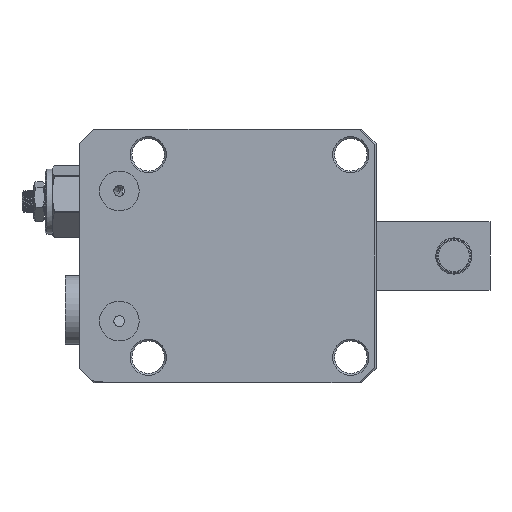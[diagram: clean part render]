
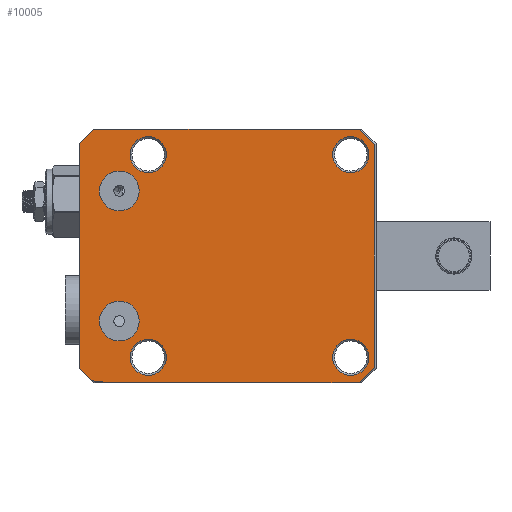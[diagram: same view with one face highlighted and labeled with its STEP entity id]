
A CAD part, front view. The second image highlights one B-rep face of the part: STEP entity #10005.
In plain terms, the highlighted planar face has unit normal (0, -1, 0).
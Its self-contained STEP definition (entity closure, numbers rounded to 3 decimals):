
#530=PLANE('',#10975);
#701=FACE_BOUND('',#1817,.T.);
#702=FACE_BOUND('',#1818,.T.);
#703=FACE_BOUND('',#1819,.T.);
#704=FACE_BOUND('',#1820,.T.);
#705=FACE_BOUND('',#1821,.T.);
#706=FACE_BOUND('',#1822,.T.);
#1229=FACE_OUTER_BOUND('',#1816,.T.);
#1816=EDGE_LOOP('',(#6970,#6971,#6972,#6973,#6974,#6975,#6976,#6977,#6978,
#6979));
#1817=EDGE_LOOP('',(#6980));
#1818=EDGE_LOOP('',(#6981));
#1819=EDGE_LOOP('',(#6982));
#1820=EDGE_LOOP('',(#6983));
#1821=EDGE_LOOP('',(#6984));
#1822=EDGE_LOOP('',(#6985));
#2467=LINE('',#15133,#3141);
#2484=LINE('',#15172,#3158);
#2485=LINE('',#15174,#3159);
#2486=LINE('',#15176,#3160);
#2487=LINE('',#15178,#3161);
#2488=LINE('',#15179,#3162);
#2489=LINE('',#15181,#3163);
#2490=LINE('',#15183,#3164);
#2491=LINE('',#15184,#3165);
#3141=VECTOR('',#12138,1000.);
#3158=VECTOR('',#12169,1000.);
#3159=VECTOR('',#12170,1000.);
#3160=VECTOR('',#12171,1000.);
#3161=VECTOR('',#12172,1000.);
#3162=VECTOR('',#12173,1000.);
#3163=VECTOR('',#12174,1000.);
#3164=VECTOR('',#12175,1000.);
#3165=VECTOR('',#12176,1000.);
#3778=CIRCLE('',#10904,5.);
#3781=CIRCLE('',#10908,5.);
#3784=CIRCLE('',#10912,5.);
#3787=CIRCLE('',#10916,5.);
#3789=CIRCLE('',#10919,5.5);
#3791=CIRCLE('',#10922,5.5);
#3819=CIRCLE('',#10976,55.5);
#4279=VERTEX_POINT('',#14742);
#4282=VERTEX_POINT('',#14750);
#4285=VERTEX_POINT('',#14758);
#4288=VERTEX_POINT('',#14766);
#4290=VERTEX_POINT('',#14772);
#4292=VERTEX_POINT('',#14778);
#4344=VERTEX_POINT('',#15130);
#4345=VERTEX_POINT('',#15132);
#4358=VERTEX_POINT('',#15168);
#4359=VERTEX_POINT('',#15169);
#4360=VERTEX_POINT('',#15171);
#4361=VERTEX_POINT('',#15173);
#4362=VERTEX_POINT('',#15175);
#4363=VERTEX_POINT('',#15177);
#4364=VERTEX_POINT('',#15180);
#4365=VERTEX_POINT('',#15182);
#5274=EDGE_CURVE('',#4279,#4279,#3778,.T.);
#5278=EDGE_CURVE('',#4282,#4282,#3781,.T.);
#5282=EDGE_CURVE('',#4285,#4285,#3784,.T.);
#5286=EDGE_CURVE('',#4288,#4288,#3787,.T.);
#5289=EDGE_CURVE('',#4290,#4290,#3789,.T.);
#5292=EDGE_CURVE('',#4292,#4292,#3791,.T.);
#5364=EDGE_CURVE('',#4344,#4345,#2467,.T.);
#5382=EDGE_CURVE('',#4358,#4359,#3819,.T.);
#5383=EDGE_CURVE('',#4359,#4360,#2484,.T.);
#5384=EDGE_CURVE('',#4360,#4361,#2485,.T.);
#5385=EDGE_CURVE('',#4361,#4362,#2486,.T.);
#5386=EDGE_CURVE('',#4362,#4363,#2487,.T.);
#5387=EDGE_CURVE('',#4363,#4345,#2488,.T.);
#5388=EDGE_CURVE('',#4344,#4364,#2489,.T.);
#5389=EDGE_CURVE('',#4364,#4365,#2490,.T.);
#5390=EDGE_CURVE('',#4365,#4358,#2491,.T.);
#6970=ORIENTED_EDGE('',*,*,#5382,.T.);
#6971=ORIENTED_EDGE('',*,*,#5383,.T.);
#6972=ORIENTED_EDGE('',*,*,#5384,.T.);
#6973=ORIENTED_EDGE('',*,*,#5385,.T.);
#6974=ORIENTED_EDGE('',*,*,#5386,.T.);
#6975=ORIENTED_EDGE('',*,*,#5387,.T.);
#6976=ORIENTED_EDGE('',*,*,#5364,.F.);
#6977=ORIENTED_EDGE('',*,*,#5388,.T.);
#6978=ORIENTED_EDGE('',*,*,#5389,.T.);
#6979=ORIENTED_EDGE('',*,*,#5390,.T.);
#6980=ORIENTED_EDGE('',*,*,#5274,.T.);
#6981=ORIENTED_EDGE('',*,*,#5278,.T.);
#6982=ORIENTED_EDGE('',*,*,#5282,.T.);
#6983=ORIENTED_EDGE('',*,*,#5286,.T.);
#6984=ORIENTED_EDGE('',*,*,#5289,.T.);
#6985=ORIENTED_EDGE('',*,*,#5292,.T.);
#10005=ADVANCED_FACE('',(#1229,#701,#702,#703,#704,#705,#706),#530,.T.);
#10904=AXIS2_PLACEMENT_3D('',#14744,#11967,#11968);
#10908=AXIS2_PLACEMENT_3D('',#14752,#11976,#11977);
#10912=AXIS2_PLACEMENT_3D('',#14760,#11985,#11986);
#10916=AXIS2_PLACEMENT_3D('',#14768,#11994,#11995);
#10919=AXIS2_PLACEMENT_3D('',#14774,#12001,#12002);
#10922=AXIS2_PLACEMENT_3D('',#14780,#12008,#12009);
#10975=AXIS2_PLACEMENT_3D('',#15167,#12165,#12166);
#10976=AXIS2_PLACEMENT_3D('',#15170,#12167,#12168);
#11967=DIRECTION('center_axis',(0.,1.,0.));
#11968=DIRECTION('ref_axis',(1.,0.,0.));
#11976=DIRECTION('center_axis',(0.,1.,0.));
#11977=DIRECTION('ref_axis',(0.,0.,-1.));
#11985=DIRECTION('center_axis',(0.,1.,0.));
#11986=DIRECTION('ref_axis',(0.,0.,-1.));
#11994=DIRECTION('center_axis',(0.,1.,0.));
#11995=DIRECTION('ref_axis',(0.,0.,-1.));
#12001=DIRECTION('center_axis',(0.,1.,0.));
#12002=DIRECTION('ref_axis',(0.,0.,-1.));
#12008=DIRECTION('center_axis',(0.,1.,0.));
#12009=DIRECTION('ref_axis',(0.,0.,-1.));
#12138=DIRECTION('',(1.,0.,0.));
#12165=DIRECTION('center_axis',(0.,-1.,0.));
#12166=DIRECTION('ref_axis',(0.,0.,-1.));
#12167=DIRECTION('center_axis',(0.,1.,0.));
#12168=DIRECTION('ref_axis',(0.,0.,-1.));
#12169=DIRECTION('',(0.994,0.,-0.11));
#12170=DIRECTION('',(1.,0.,0.));
#12171=DIRECTION('',(0.707,0.,0.707));
#12172=DIRECTION('',(0.,0.,1.));
#12173=DIRECTION('',(-0.707,0.,0.707));
#12174=DIRECTION('',(-0.707,0.,-0.707));
#12175=DIRECTION('',(0.,0.,-1.));
#12176=DIRECTION('',(0.707,0.,-0.707));
#14742=CARTESIAN_POINT('',(422.71,103.516,-28.));
#14744=CARTESIAN_POINT('Origin',(427.71,103.516,-28.));
#14750=CARTESIAN_POINT('',(483.71,103.516,-23.));
#14752=CARTESIAN_POINT('Origin',(483.71,103.516,-28.));
#14758=CARTESIAN_POINT('',(483.71,103.516,33.));
#14760=CARTESIAN_POINT('Origin',(483.71,103.516,28.));
#14766=CARTESIAN_POINT('',(427.71,103.516,33.));
#14768=CARTESIAN_POINT('Origin',(427.71,103.516,28.));
#14772=CARTESIAN_POINT('',(419.71,103.516,-12.5));
#14774=CARTESIAN_POINT('Origin',(419.71,103.516,-18.));
#14778=CARTESIAN_POINT('',(419.71,103.516,23.5));
#14780=CARTESIAN_POINT('Origin',(419.71,103.516,18.));
#15130=CARTESIAN_POINT('',(412.71,103.516,35.));
#15132=CARTESIAN_POINT('',(486.003,103.516,35.));
#15133=CARTESIAN_POINT('',(412.71,103.516,35.));
#15167=CARTESIAN_POINT('Origin',(408.71,103.516,35.));
#15168=CARTESIAN_POINT('',(412.337,103.516,-34.627));
#15169=CARTESIAN_POINT('',(412.236,103.516,-34.5));
#15170=CARTESIAN_POINT('Origin',(455.71,103.516,0.));
#15171=CARTESIAN_POINT('',(416.752,103.516,-35.));
#15172=CARTESIAN_POINT('',(412.236,103.516,-34.5));
#15173=CARTESIAN_POINT('',(486.003,103.516,-35.));
#15174=CARTESIAN_POINT('',(408.71,103.516,-35.));
#15175=CARTESIAN_POINT('',(490.21,103.516,-30.793));
#15176=CARTESIAN_POINT('',(486.003,103.516,-35.));
#15177=CARTESIAN_POINT('',(490.21,103.516,30.793));
#15178=CARTESIAN_POINT('',(490.21,103.516,35.));
#15179=CARTESIAN_POINT('',(490.21,103.516,30.793));
#15180=CARTESIAN_POINT('',(408.71,103.516,31.));
#15181=CARTESIAN_POINT('',(412.71,103.516,35.));
#15182=CARTESIAN_POINT('',(408.71,103.516,-31.));
#15183=CARTESIAN_POINT('',(408.71,103.516,35.));
#15184=CARTESIAN_POINT('',(408.71,103.516,-31.));
